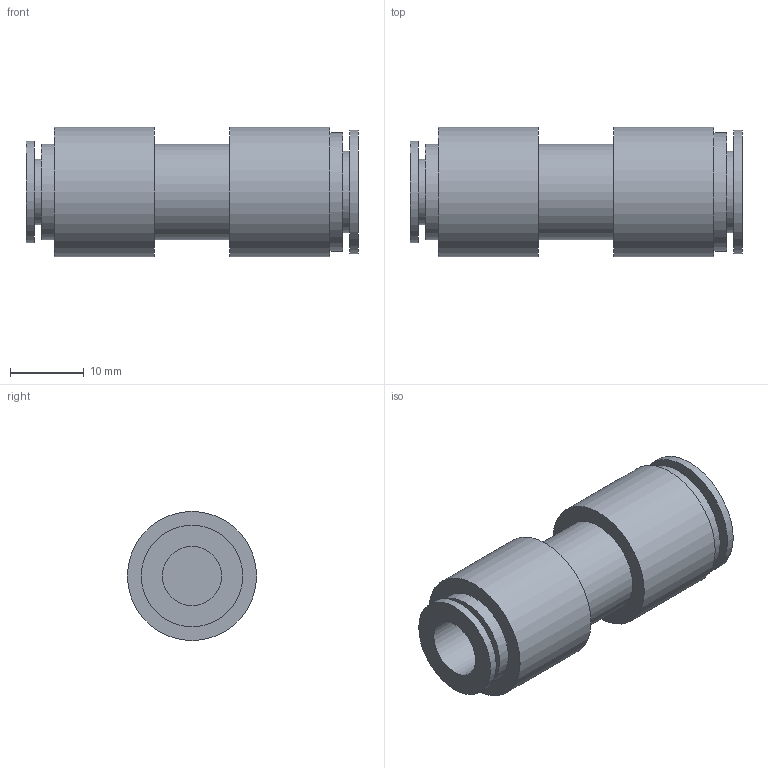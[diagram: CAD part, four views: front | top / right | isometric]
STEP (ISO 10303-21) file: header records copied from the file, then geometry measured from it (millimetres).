
FILE_DESCRIPTION (( 'STEP AP214' ), '1' );
FILE_NAME ('UJDST8-W.step', '2026-05-25T07:39:51', ( 'EC2' ), ( 'Amazon.com' ), 'SwSTEP 2.0', 'SolidWorks 2016', '' );
FILE_SCHEMA (( 'AUTOMOTIVE_DESIGN' ));
Length unit declared in the file: millimetre
Products named in the file (1): UJDST8-W
Bounding box: 45 x 17.5 x 17.5 mm (x, y, z)
Volume: 6851.1 mm3; surface area: 4306.2 mm2
Topology: 1 solids, 1 shells, 23 faces, 33 edges, 22 vertices
Faces by surface type: plane 12, cylinder 11
Full cylindrical faces by diameter (mm): 8 x1, 8.9 x1, 10 x1, 11.1 x1, 13 x2, 13.75 x1, 16 x1, 16.8 x1, 17.5 x2
Entity records: 488 total; most frequent: DIRECTION 92, CARTESIAN_POINT 68, AXIS2_PLACEMENT_3D 46, ORIENTED_EDGE 44, EDGE_LOOP 44, FACE_OUTER_BOUND 34, ADVANCED_FACE 23, CIRCLE 22
